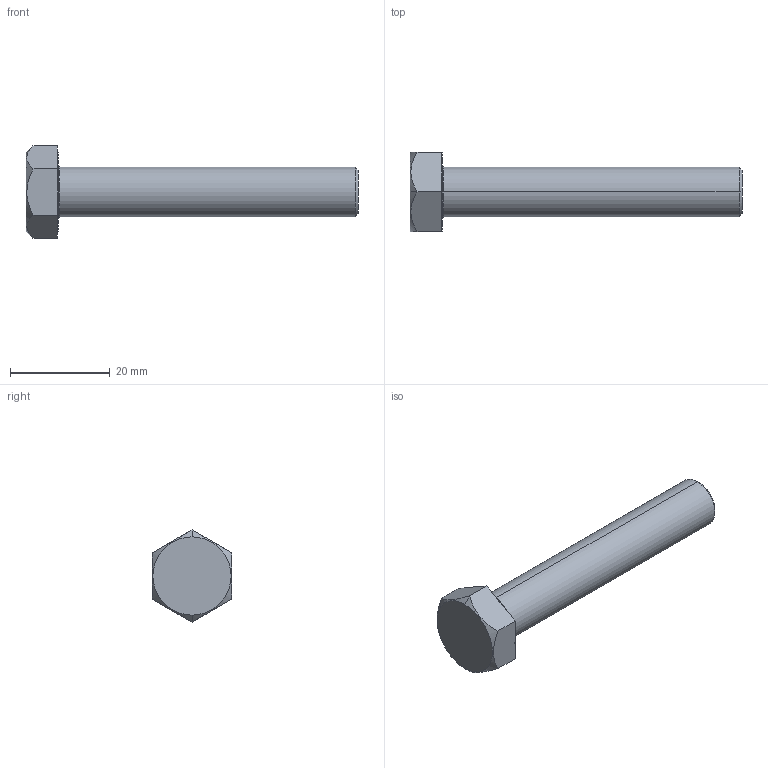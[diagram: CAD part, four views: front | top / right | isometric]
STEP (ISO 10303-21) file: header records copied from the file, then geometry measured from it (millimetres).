
FILE_DESCRIPTION (( 'STEP AP203' ), '1' );
FILE_NAME ('LGN-TD-M10x60.STEP', '2026-08-14T04:55:55', ( '' ), ( '' ), 'SwSTEP 2.0', 'SolidWorks 2020', '' );
FILE_SCHEMA (( 'CONFIG_CONTROL_DESIGN' ));
Length unit declared in the file: millimetre
Products named in the file (1): LGN-TD-M10x60
Bounding box: 66.5 x 16 x 18.48 mm (x, y, z)
Volume: 6132.8 mm3; surface area: 2651.4 mm2
Topology: 1 solids, 1 shells, 25 faces, 54 edges, 32 vertices
Faces by surface type: plane 15, cone 4, cylinder 4, torus 2
Entity records: 811 total; most frequent: CARTESIAN_POINT 184, DIRECTION 122, ORIENTED_EDGE 108, EDGE_CURVE 54, AXIS2_PLACEMENT_3D 48, VERTEX_POINT 32, LINE 26, EDGE_LOOP 26
